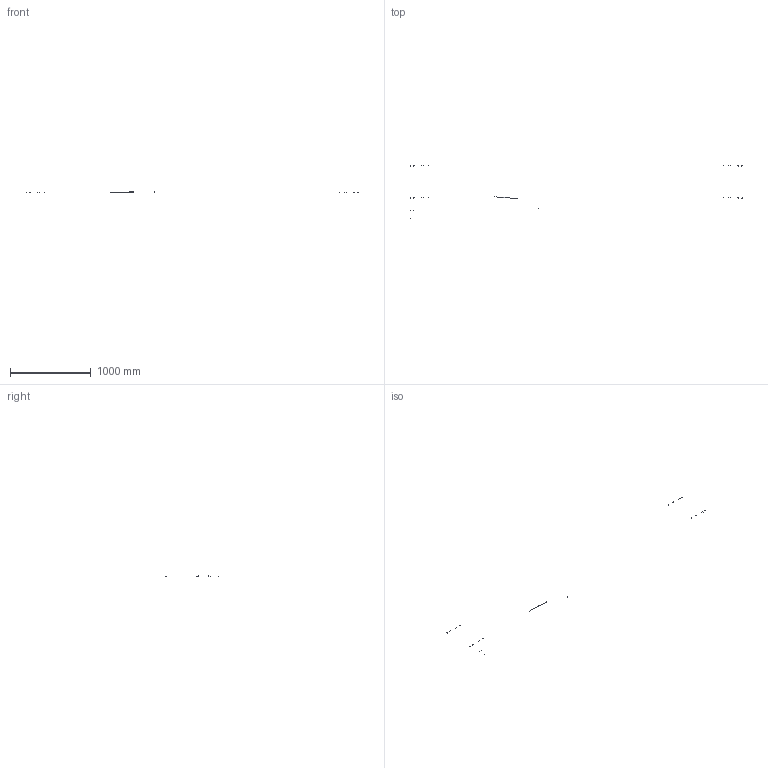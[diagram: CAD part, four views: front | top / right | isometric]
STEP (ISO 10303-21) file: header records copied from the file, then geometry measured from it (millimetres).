
FILE_DESCRIPTION(/* description */ (''),/* implementation_level */ '2;1');
FILE_NAME(/* name */ '1173',/* time_stamp */ '2021-03-01T11:19:28+01:00',/* author */ (''),/* organization */ (''),/* preprocessor_version */ 'ST-DEVELOPER v16.5',/* originating_system */ '',/* authorisation */ '');
FILE_SCHEMA (('CONFIG_CONTROL_DESIGN'));
Length unit declared in the file: millimetre
Products named in the file (1): Document
Bounding box: 4100 x 665.59 x 16.28 mm (x, y, z)
Volume: 976449.3 mm3; surface area: 389842.3 mm2
Topology: 10 solids, 10 shells, 69 faces, 137 edges, 72 vertices
Faces by surface type: bspline 61, plane 6, cylinder 2
Full cylindrical faces by diameter (mm): 1.5 x2
Entity records: 8336 total; most frequent: CARTESIAN_POINT 7483, ORIENTED_EDGE 250, EDGE_CURVE 125, VERTEX_POINT 72, ADVANCED_FACE 69, FACE_OUTER_BOUND 69, EDGE_LOOP 69, B_SPLINE_CURVE_WITH_KNOTS 53
